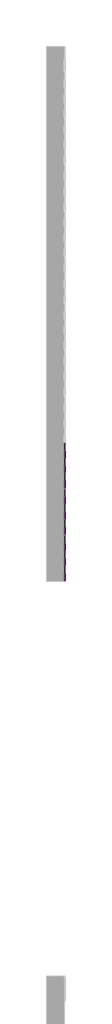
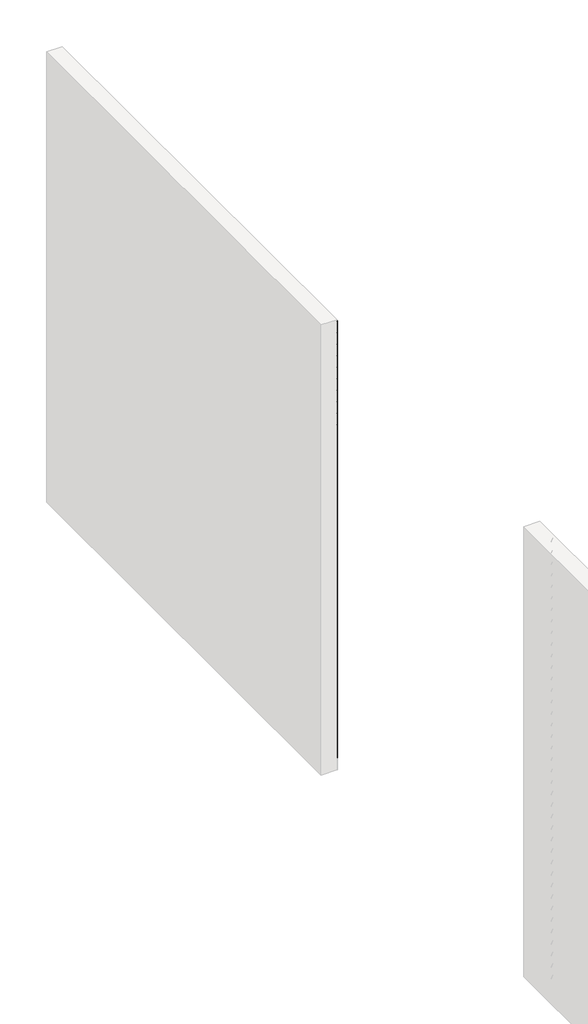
# One storey, part 25 of 45: 147 proxies.
"""IFC4 building model written with IfcOpenShell, lengths in millimetres."""

from ifc_helpers import new_model, si_unit, origin, place, context, project, spatial, transform, mapped, element, save
from components import generic_models_ab0f2c30

model = new_model("IFC4")

# Units and contexts
model_context = context("Model", 3, world=origin())
ifc_project = project(units=[si_unit("LENGTHUNIT", "METRE", prefix="MILLI")], contexts=[model_context])

# Site, building, storey
site = spatial("IfcSite", under=ifc_project)
building = spatial("IfcBuilding", under=site)
storey = spatial("IfcBuildingStorey", under=building, Name="PORTOBELLO - SHOWROOM", Elevation=0.0)

# Proxies
placement = place(None, origin())
generic_models_shape = generic_models_ab0f2c30(model_context)
element("IfcBuildingElementProxy", 1, Name="PBSHOP - HORIZONTES SANTORINI 6,5X23 : SANTORINI ROTAS", ObjectType="PBSHOP - HORIZONTES SANTORINI 6,5X23 : SANTORINI ROTAS", at=placement, inside=storey, context=model_context, shape_type="MappedRepresentation", body=[
    mapped(generic_models_shape, transform((66511.8826867, 11194.0312463, 34.5), x_axis=(0.0, 0.0, 1.0), y_axis=(0.0, -1.0, 0.0), z_axis=(1.0, 0.0, 0.0))),
])
element("IfcBuildingElementProxy", 2, Name="PBSHOP - HORIZONTES SANTORINI 6,5X23 : SANTORINI ROTAS", ObjectType="PBSHOP - HORIZONTES SANTORINI 6,5X23 : SANTORINI ROTAS", at=placement, inside=storey, context=model_context, shape_type="MappedRepresentation", body=[
    mapped(generic_models_shape, transform((66511.8826867, 11428.0312463, 34.5), x_axis=(0.0, 0.0, 1.0), y_axis=(0.0, -1.0, 0.0), z_axis=(1.0, 0.0, 0.0))),
])
element("IfcBuildingElementProxy", 3, Name="PBSHOP - HORIZONTES SANTORINI 6,5X23 : SANTORINI ROTAS", ObjectType="PBSHOP - HORIZONTES SANTORINI 6,5X23 : SANTORINI ROTAS", at=placement, inside=storey, context=model_context, shape_type="MappedRepresentation", body=[
    mapped(generic_models_shape, transform((66511.8826867, 11662.0312463, 34.5), x_axis=(0.0, 0.0, 1.0), y_axis=(0.0, -1.0, 0.0), z_axis=(1.0, 0.0, 0.0))),
])
element("IfcBuildingElementProxy", 4, Name="PBSHOP - HORIZONTES SANTORINI 6,5X23 : SANTORINI ROTAS", ObjectType="PBSHOP - HORIZONTES SANTORINI 6,5X23 : SANTORINI ROTAS", at=placement, inside=storey, context=model_context, shape_type="MappedRepresentation", body=[
    mapped(generic_models_shape, transform((66511.8826867, 11896.0312463, 34.5), x_axis=(0.0, 0.0, 1.0), y_axis=(0.0, -1.0, 0.0), z_axis=(1.0, 0.0, 0.0))),
])
element("IfcBuildingElementProxy", 5, Name="PBSHOP - HORIZONTES SANTORINI 6,5X23 : SANTORINI ROTAS", ObjectType="PBSHOP - HORIZONTES SANTORINI 6,5X23 : SANTORINI ROTAS", at=placement, inside=storey, context=model_context, shape_type="MappedRepresentation", body=[
    mapped(generic_models_shape, transform((66511.8826867, 10492.0312463, 103.5), x_axis=(0.0, 0.0, 1.0), y_axis=(0.0, -1.0, 0.0), z_axis=(1.0, 0.0, 0.0))),
])
element("IfcBuildingElementProxy", 6, Name="PBSHOP - HORIZONTES SANTORINI 6,5X23 : SANTORINI ROTAS", ObjectType="PBSHOP - HORIZONTES SANTORINI 6,5X23 : SANTORINI ROTAS", at=placement, inside=storey, context=model_context, shape_type="MappedRepresentation", body=[
    mapped(generic_models_shape, transform((66511.8826867, 10726.0312463, 103.5), x_axis=(0.0, 0.0, 1.0), y_axis=(0.0, -1.0, 0.0), z_axis=(1.0, 0.0, 0.0))),
])
element("IfcBuildingElementProxy", 7, Name="PBSHOP - HORIZONTES SANTORINI 6,5X23 : SANTORINI ROTAS", ObjectType="PBSHOP - HORIZONTES SANTORINI 6,5X23 : SANTORINI ROTAS", at=placement, inside=storey, context=model_context, shape_type="MappedRepresentation", body=[
    mapped(generic_models_shape, transform((66511.8826867, 10960.0312463, 103.5), x_axis=(0.0, 0.0, 1.0), y_axis=(0.0, -1.0, 0.0), z_axis=(1.0, 0.0, 0.0))),
])
element("IfcBuildingElementProxy", 8, Name="PBSHOP - HORIZONTES SANTORINI 6,5X23 : SANTORINI ROTAS", ObjectType="PBSHOP - HORIZONTES SANTORINI 6,5X23 : SANTORINI ROTAS", at=placement, inside=storey, context=model_context, shape_type="MappedRepresentation", body=[
    mapped(generic_models_shape, transform((66511.8826867, 11194.0312463, 103.5), x_axis=(0.0, 0.0, 1.0), y_axis=(0.0, -1.0, 0.0), z_axis=(1.0, 0.0, 0.0))),
])
element("IfcBuildingElementProxy", 9, Name="PBSHOP - HORIZONTES SANTORINI 6,5X23 : SANTORINI ROTAS", ObjectType="PBSHOP - HORIZONTES SANTORINI 6,5X23 : SANTORINI ROTAS", at=placement, inside=storey, context=model_context, shape_type="MappedRepresentation", body=[
    mapped(generic_models_shape, transform((66511.8826867, 11428.0312463, 103.5), x_axis=(0.0, 0.0, 1.0), y_axis=(0.0, -1.0, 0.0), z_axis=(1.0, 0.0, 0.0))),
])
element("IfcBuildingElementProxy", 10, Name="PBSHOP - HORIZONTES SANTORINI 6,5X23 : SANTORINI ROTAS", ObjectType="PBSHOP - HORIZONTES SANTORINI 6,5X23 : SANTORINI ROTAS", at=placement, inside=storey, context=model_context, shape_type="MappedRepresentation", body=[
    mapped(generic_models_shape, transform((66511.8826867, 11662.0312463, 103.5), x_axis=(0.0, 0.0, 1.0), y_axis=(0.0, -1.0, 0.0), z_axis=(1.0, 0.0, 0.0))),
])
element("IfcBuildingElementProxy", 11, Name="PBSHOP - HORIZONTES SANTORINI 6,5X23 : SANTORINI ROTAS", ObjectType="PBSHOP - HORIZONTES SANTORINI 6,5X23 : SANTORINI ROTAS", at=placement, inside=storey, context=model_context, shape_type="MappedRepresentation", body=[
    mapped(generic_models_shape, transform((66511.8826867, 11896.0312463, 103.5), x_axis=(0.0, 0.0, 1.0), y_axis=(0.0, -1.0, 0.0), z_axis=(1.0, 0.0, 0.0))),
])
element("IfcBuildingElementProxy", 12, Name="PBSHOP - HORIZONTES SANTORINI 6,5X23 : SANTORINI ROTAS", ObjectType="PBSHOP - HORIZONTES SANTORINI 6,5X23 : SANTORINI ROTAS", at=placement, inside=storey, context=model_context, shape_type="MappedRepresentation", body=[
    mapped(generic_models_shape, transform((66511.8826867, 10492.0312463, 172.5), x_axis=(0.0, 0.0, 1.0), y_axis=(0.0, -1.0, 0.0), z_axis=(1.0, 0.0, 0.0))),
])
element("IfcBuildingElementProxy", 13, Name="PBSHOP - HORIZONTES SANTORINI 6,5X23 : SANTORINI ROTAS", ObjectType="PBSHOP - HORIZONTES SANTORINI 6,5X23 : SANTORINI ROTAS", at=placement, inside=storey, context=model_context, shape_type="MappedRepresentation", body=[
    mapped(generic_models_shape, transform((66511.8826867, 10726.0312463, 172.5), x_axis=(0.0, 0.0, 1.0), y_axis=(0.0, -1.0, 0.0), z_axis=(1.0, 0.0, 0.0))),
])
element("IfcBuildingElementProxy", 14, Name="PBSHOP - HORIZONTES SANTORINI 6,5X23 : SANTORINI ROTAS", ObjectType="PBSHOP - HORIZONTES SANTORINI 6,5X23 : SANTORINI ROTAS", at=placement, inside=storey, context=model_context, shape_type="MappedRepresentation", body=[
    mapped(generic_models_shape, transform((66511.8826867, 10960.0312463, 172.5), x_axis=(0.0, 0.0, 1.0), y_axis=(0.0, -1.0, 0.0), z_axis=(1.0, 0.0, 0.0))),
])
element("IfcBuildingElementProxy", 15, Name="PBSHOP - HORIZONTES SANTORINI 6,5X23 : SANTORINI ROTAS", ObjectType="PBSHOP - HORIZONTES SANTORINI 6,5X23 : SANTORINI ROTAS", at=placement, inside=storey, context=model_context, shape_type="MappedRepresentation", body=[
    mapped(generic_models_shape, transform((66511.8826867, 11194.0312463, 172.5), x_axis=(0.0, 0.0, 1.0), y_axis=(0.0, -1.0, 0.0), z_axis=(1.0, 0.0, 0.0))),
])
element("IfcBuildingElementProxy", 16, Name="PBSHOP - HORIZONTES SANTORINI 6,5X23 : SANTORINI ROTAS", ObjectType="PBSHOP - HORIZONTES SANTORINI 6,5X23 : SANTORINI ROTAS", at=placement, inside=storey, context=model_context, shape_type="MappedRepresentation", body=[
    mapped(generic_models_shape, transform((66511.8826867, 11428.0312463, 172.5), x_axis=(0.0, 0.0, 1.0), y_axis=(0.0, -1.0, 0.0), z_axis=(1.0, 0.0, 0.0))),
])
element("IfcBuildingElementProxy", 17, Name="PBSHOP - HORIZONTES SANTORINI 6,5X23 : SANTORINI ROTAS", ObjectType="PBSHOP - HORIZONTES SANTORINI 6,5X23 : SANTORINI ROTAS", at=placement, inside=storey, context=model_context, shape_type="MappedRepresentation", body=[
    mapped(generic_models_shape, transform((66511.8826867, 11662.0312463, 172.5), x_axis=(0.0, 0.0, 1.0), y_axis=(0.0, -1.0, 0.0), z_axis=(1.0, 0.0, 0.0))),
])
element("IfcBuildingElementProxy", 18, Name="PBSHOP - HORIZONTES SANTORINI 6,5X23 : SANTORINI ROTAS", ObjectType="PBSHOP - HORIZONTES SANTORINI 6,5X23 : SANTORINI ROTAS", at=placement, inside=storey, context=model_context, shape_type="MappedRepresentation", body=[
    mapped(generic_models_shape, transform((66511.8826867, 11896.0312463, 172.5), x_axis=(0.0, 0.0, 1.0), y_axis=(0.0, -1.0, 0.0), z_axis=(1.0, 0.0, 0.0))),
])
element("IfcBuildingElementProxy", 19, Name="PBSHOP - HORIZONTES SANTORINI 6,5X23 : SANTORINI ROTAS", ObjectType="PBSHOP - HORIZONTES SANTORINI 6,5X23 : SANTORINI ROTAS", at=placement, inside=storey, context=model_context, shape_type="MappedRepresentation", body=[
    mapped(generic_models_shape, transform((66511.8826867, 10492.0312463, 241.5), x_axis=(0.0, 0.0, 1.0), y_axis=(0.0, -1.0, 0.0), z_axis=(1.0, 0.0, 0.0))),
])
element("IfcBuildingElementProxy", 20, Name="PBSHOP - HORIZONTES SANTORINI 6,5X23 : SANTORINI ROTAS", ObjectType="PBSHOP - HORIZONTES SANTORINI 6,5X23 : SANTORINI ROTAS", at=placement, inside=storey, context=model_context, shape_type="MappedRepresentation", body=[
    mapped(generic_models_shape, transform((66511.8826867, 10726.0312463, 241.5), x_axis=(0.0, 0.0, 1.0), y_axis=(0.0, -1.0, 0.0), z_axis=(1.0, 0.0, 0.0))),
])
element("IfcBuildingElementProxy", 21, Name="PBSHOP - HORIZONTES SANTORINI 6,5X23 : SANTORINI ROTAS", ObjectType="PBSHOP - HORIZONTES SANTORINI 6,5X23 : SANTORINI ROTAS", at=placement, inside=storey, context=model_context, shape_type="MappedRepresentation", body=[
    mapped(generic_models_shape, transform((66511.8826867, 10960.0312463, 241.5), x_axis=(0.0, 0.0, 1.0), y_axis=(0.0, -1.0, 0.0), z_axis=(1.0, 0.0, 0.0))),
])
element("IfcBuildingElementProxy", 22, Name="PBSHOP - HORIZONTES SANTORINI 6,5X23 : SANTORINI ROTAS", ObjectType="PBSHOP - HORIZONTES SANTORINI 6,5X23 : SANTORINI ROTAS", at=placement, inside=storey, context=model_context, shape_type="MappedRepresentation", body=[
    mapped(generic_models_shape, transform((66511.8826867, 11194.0312463, 241.5), x_axis=(0.0, 0.0, 1.0), y_axis=(0.0, -1.0, 0.0), z_axis=(1.0, 0.0, 0.0))),
])
element("IfcBuildingElementProxy", 23, Name="PBSHOP - HORIZONTES SANTORINI 6,5X23 : SANTORINI ROTAS", ObjectType="PBSHOP - HORIZONTES SANTORINI 6,5X23 : SANTORINI ROTAS", at=placement, inside=storey, context=model_context, shape_type="MappedRepresentation", body=[
    mapped(generic_models_shape, transform((66511.8826867, 11428.0312463, 241.5), x_axis=(0.0, 0.0, 1.0), y_axis=(0.0, -1.0, 0.0), z_axis=(1.0, 0.0, 0.0))),
])
element("IfcBuildingElementProxy", 24, Name="PBSHOP - HORIZONTES SANTORINI 6,5X23 : SANTORINI ROTAS", ObjectType="PBSHOP - HORIZONTES SANTORINI 6,5X23 : SANTORINI ROTAS", at=placement, inside=storey, context=model_context, shape_type="MappedRepresentation", body=[
    mapped(generic_models_shape, transform((66511.8826867, 11662.0312463, 241.5), x_axis=(0.0, 0.0, 1.0), y_axis=(0.0, -1.0, 0.0), z_axis=(1.0, 0.0, 0.0))),
])
element("IfcBuildingElementProxy", 25, Name="PBSHOP - HORIZONTES SANTORINI 6,5X23 : SANTORINI ROTAS", ObjectType="PBSHOP - HORIZONTES SANTORINI 6,5X23 : SANTORINI ROTAS", at=placement, inside=storey, context=model_context, shape_type="MappedRepresentation", body=[
    mapped(generic_models_shape, transform((66511.8826867, 11896.0312463, 241.5), x_axis=(0.0, 0.0, 1.0), y_axis=(0.0, -1.0, 0.0), z_axis=(1.0, 0.0, 0.0))),
])
element("IfcBuildingElementProxy", 26, Name="PBSHOP - HORIZONTES SANTORINI 6,5X23 : SANTORINI ROTAS", ObjectType="PBSHOP - HORIZONTES SANTORINI 6,5X23 : SANTORINI ROTAS", at=placement, inside=storey, context=model_context, shape_type="MappedRepresentation", body=[
    mapped(generic_models_shape, transform((66511.8826867, 10492.0312463, 310.5), x_axis=(0.0, 0.0, 1.0), y_axis=(0.0, -1.0, 0.0), z_axis=(1.0, 0.0, 0.0))),
])
element("IfcBuildingElementProxy", 27, Name="PBSHOP - HORIZONTES SANTORINI 6,5X23 : SANTORINI ROTAS", ObjectType="PBSHOP - HORIZONTES SANTORINI 6,5X23 : SANTORINI ROTAS", at=placement, inside=storey, context=model_context, shape_type="MappedRepresentation", body=[
    mapped(generic_models_shape, transform((66511.8826867, 10726.0312463, 310.5), x_axis=(0.0, 0.0, 1.0), y_axis=(0.0, -1.0, 0.0), z_axis=(1.0, 0.0, 0.0))),
])
element("IfcBuildingElementProxy", 28, Name="PBSHOP - HORIZONTES SANTORINI 6,5X23 : SANTORINI ROTAS", ObjectType="PBSHOP - HORIZONTES SANTORINI 6,5X23 : SANTORINI ROTAS", at=placement, inside=storey, context=model_context, shape_type="MappedRepresentation", body=[
    mapped(generic_models_shape, transform((66511.8826867, 10960.0312463, 310.5), x_axis=(0.0, 0.0, 1.0), y_axis=(0.0, -1.0, 0.0), z_axis=(1.0, 0.0, 0.0))),
])
element("IfcBuildingElementProxy", 29, Name="PBSHOP - HORIZONTES SANTORINI 6,5X23 : SANTORINI ROTAS", ObjectType="PBSHOP - HORIZONTES SANTORINI 6,5X23 : SANTORINI ROTAS", at=placement, inside=storey, context=model_context, shape_type="MappedRepresentation", body=[
    mapped(generic_models_shape, transform((66511.8826867, 11194.0312463, 310.5), x_axis=(0.0, 0.0, 1.0), y_axis=(0.0, -1.0, 0.0), z_axis=(1.0, 0.0, 0.0))),
])
element("IfcBuildingElementProxy", 30, Name="PBSHOP - HORIZONTES SANTORINI 6,5X23 : SANTORINI ROTAS", ObjectType="PBSHOP - HORIZONTES SANTORINI 6,5X23 : SANTORINI ROTAS", at=placement, inside=storey, context=model_context, shape_type="MappedRepresentation", body=[
    mapped(generic_models_shape, transform((66511.8826867, 11428.0312463, 310.5), x_axis=(0.0, 0.0, 1.0), y_axis=(0.0, -1.0, 0.0), z_axis=(1.0, 0.0, 0.0))),
])
element("IfcBuildingElementProxy", 31, Name="PBSHOP - HORIZONTES SANTORINI 6,5X23 : SANTORINI ROTAS", ObjectType="PBSHOP - HORIZONTES SANTORINI 6,5X23 : SANTORINI ROTAS", at=placement, inside=storey, context=model_context, shape_type="MappedRepresentation", body=[
    mapped(generic_models_shape, transform((66511.8826867, 11662.0312463, 310.5), x_axis=(0.0, 0.0, 1.0), y_axis=(0.0, -1.0, 0.0), z_axis=(1.0, 0.0, 0.0))),
])
element("IfcBuildingElementProxy", 32, Name="PBSHOP - HORIZONTES SANTORINI 6,5X23 : SANTORINI ROTAS", ObjectType="PBSHOP - HORIZONTES SANTORINI 6,5X23 : SANTORINI ROTAS", at=placement, inside=storey, context=model_context, shape_type="MappedRepresentation", body=[
    mapped(generic_models_shape, transform((66511.8826867, 11896.0312463, 310.5), x_axis=(0.0, 0.0, 1.0), y_axis=(0.0, -1.0, 0.0), z_axis=(1.0, 0.0, 0.0))),
])
element("IfcBuildingElementProxy", 33, Name="PBSHOP - HORIZONTES SANTORINI 6,5X23 : SANTORINI ROTAS", ObjectType="PBSHOP - HORIZONTES SANTORINI 6,5X23 : SANTORINI ROTAS", at=placement, inside=storey, context=model_context, shape_type="MappedRepresentation", body=[
    mapped(generic_models_shape, transform((66511.8826867, 10492.0312463, 379.5), x_axis=(0.0, 0.0, 1.0), y_axis=(0.0, -1.0, 0.0), z_axis=(1.0, 0.0, 0.0))),
])
element("IfcBuildingElementProxy", 34, Name="PBSHOP - HORIZONTES SANTORINI 6,5X23 : SANTORINI ROTAS", ObjectType="PBSHOP - HORIZONTES SANTORINI 6,5X23 : SANTORINI ROTAS", at=placement, inside=storey, context=model_context, shape_type="MappedRepresentation", body=[
    mapped(generic_models_shape, transform((66511.8826867, 10726.0312463, 379.5), x_axis=(0.0, 0.0, 1.0), y_axis=(0.0, -1.0, 0.0), z_axis=(1.0, 0.0, 0.0))),
])
element("IfcBuildingElementProxy", 35, Name="PBSHOP - HORIZONTES SANTORINI 6,5X23 : SANTORINI ROTAS", ObjectType="PBSHOP - HORIZONTES SANTORINI 6,5X23 : SANTORINI ROTAS", at=placement, inside=storey, context=model_context, shape_type="MappedRepresentation", body=[
    mapped(generic_models_shape, transform((66511.8826867, 10960.0312463, 379.5), x_axis=(0.0, 0.0, 1.0), y_axis=(0.0, -1.0, 0.0), z_axis=(1.0, 0.0, 0.0))),
])
element("IfcBuildingElementProxy", 36, Name="PBSHOP - HORIZONTES SANTORINI 6,5X23 : SANTORINI ROTAS", ObjectType="PBSHOP - HORIZONTES SANTORINI 6,5X23 : SANTORINI ROTAS", at=placement, inside=storey, context=model_context, shape_type="MappedRepresentation", body=[
    mapped(generic_models_shape, transform((66511.8826867, 11194.0312463, 379.5), x_axis=(0.0, 0.0, 1.0), y_axis=(0.0, -1.0, 0.0), z_axis=(1.0, 0.0, 0.0))),
])
element("IfcBuildingElementProxy", 37, Name="PBSHOP - HORIZONTES SANTORINI 6,5X23 : SANTORINI ROTAS", ObjectType="PBSHOP - HORIZONTES SANTORINI 6,5X23 : SANTORINI ROTAS", at=placement, inside=storey, context=model_context, shape_type="MappedRepresentation", body=[
    mapped(generic_models_shape, transform((66511.8826867, 11428.0312463, 379.5), x_axis=(0.0, 0.0, 1.0), y_axis=(0.0, -1.0, 0.0), z_axis=(1.0, 0.0, 0.0))),
])
element("IfcBuildingElementProxy", 38, Name="PBSHOP - HORIZONTES SANTORINI 6,5X23 : SANTORINI ROTAS", ObjectType="PBSHOP - HORIZONTES SANTORINI 6,5X23 : SANTORINI ROTAS", at=placement, inside=storey, context=model_context, shape_type="MappedRepresentation", body=[
    mapped(generic_models_shape, transform((66511.8826867, 11662.0312463, 379.5), x_axis=(0.0, 0.0, 1.0), y_axis=(0.0, -1.0, 0.0), z_axis=(1.0, 0.0, 0.0))),
])
element("IfcBuildingElementProxy", 39, Name="PBSHOP - HORIZONTES SANTORINI 6,5X23 : SANTORINI ROTAS", ObjectType="PBSHOP - HORIZONTES SANTORINI 6,5X23 : SANTORINI ROTAS", at=placement, inside=storey, context=model_context, shape_type="MappedRepresentation", body=[
    mapped(generic_models_shape, transform((66511.8826867, 11896.0312463, 379.5), x_axis=(0.0, 0.0, 1.0), y_axis=(0.0, -1.0, 0.0), z_axis=(1.0, 0.0, 0.0))),
])
element("IfcBuildingElementProxy", 40, Name="PBSHOP - HORIZONTES SANTORINI 6,5X23 : SANTORINI ROTAS", ObjectType="PBSHOP - HORIZONTES SANTORINI 6,5X23 : SANTORINI ROTAS", at=placement, inside=storey, context=model_context, shape_type="MappedRepresentation", body=[
    mapped(generic_models_shape, transform((66511.8826867, 10492.0312463, 448.5), x_axis=(0.0, 0.0, 1.0), y_axis=(0.0, -1.0, 0.0), z_axis=(1.0, 0.0, 0.0))),
])
element("IfcBuildingElementProxy", 41, Name="PBSHOP - HORIZONTES SANTORINI 6,5X23 : SANTORINI ROTAS", ObjectType="PBSHOP - HORIZONTES SANTORINI 6,5X23 : SANTORINI ROTAS", at=placement, inside=storey, context=model_context, shape_type="MappedRepresentation", body=[
    mapped(generic_models_shape, transform((66511.8826867, 10726.0312463, 448.5), x_axis=(0.0, 0.0, 1.0), y_axis=(0.0, -1.0, 0.0), z_axis=(1.0, 0.0, 0.0))),
])
element("IfcBuildingElementProxy", 42, Name="PBSHOP - HORIZONTES SANTORINI 6,5X23 : SANTORINI ROTAS", ObjectType="PBSHOP - HORIZONTES SANTORINI 6,5X23 : SANTORINI ROTAS", at=placement, inside=storey, context=model_context, shape_type="MappedRepresentation", body=[
    mapped(generic_models_shape, transform((66511.8826867, 10960.0312463, 448.5), x_axis=(0.0, 0.0, 1.0), y_axis=(0.0, -1.0, 0.0), z_axis=(1.0, 0.0, 0.0))),
])
element("IfcBuildingElementProxy", 43, Name="PBSHOP - HORIZONTES SANTORINI 6,5X23 : SANTORINI ROTAS", ObjectType="PBSHOP - HORIZONTES SANTORINI 6,5X23 : SANTORINI ROTAS", at=placement, inside=storey, context=model_context, shape_type="MappedRepresentation", body=[
    mapped(generic_models_shape, transform((66511.8826867, 11194.0312463, 448.5), x_axis=(0.0, 0.0, 1.0), y_axis=(0.0, -1.0, 0.0), z_axis=(1.0, 0.0, 0.0))),
])
element("IfcBuildingElementProxy", 44, Name="PBSHOP - HORIZONTES SANTORINI 6,5X23 : SANTORINI ROTAS", ObjectType="PBSHOP - HORIZONTES SANTORINI 6,5X23 : SANTORINI ROTAS", at=placement, inside=storey, context=model_context, shape_type="MappedRepresentation", body=[
    mapped(generic_models_shape, transform((66511.8826867, 11428.0312463, 448.5), x_axis=(0.0, 0.0, 1.0), y_axis=(0.0, -1.0, 0.0), z_axis=(1.0, 0.0, 0.0))),
])
element("IfcBuildingElementProxy", 45, Name="PBSHOP - HORIZONTES SANTORINI 6,5X23 : SANTORINI ROTAS", ObjectType="PBSHOP - HORIZONTES SANTORINI 6,5X23 : SANTORINI ROTAS", at=placement, inside=storey, context=model_context, shape_type="MappedRepresentation", body=[
    mapped(generic_models_shape, transform((66511.8826867, 11662.0312463, 448.5), x_axis=(0.0, 0.0, 1.0), y_axis=(0.0, -1.0, 0.0), z_axis=(1.0, 0.0, 0.0))),
])
element("IfcBuildingElementProxy", 46, Name="PBSHOP - HORIZONTES SANTORINI 6,5X23 : SANTORINI ROTAS", ObjectType="PBSHOP - HORIZONTES SANTORINI 6,5X23 : SANTORINI ROTAS", at=placement, inside=storey, context=model_context, shape_type="MappedRepresentation", body=[
    mapped(generic_models_shape, transform((66511.8826867, 11896.0312463, 448.5), x_axis=(0.0, 0.0, 1.0), y_axis=(0.0, -1.0, 0.0), z_axis=(1.0, 0.0, 0.0))),
])
element("IfcBuildingElementProxy", 47, Name="PBSHOP - HORIZONTES SANTORINI 6,5X23 : SANTORINI ROTAS", ObjectType="PBSHOP - HORIZONTES SANTORINI 6,5X23 : SANTORINI ROTAS", at=placement, inside=storey, context=model_context, shape_type="MappedRepresentation", body=[
    mapped(generic_models_shape, transform((66511.8826867, 10492.0312463, 517.5), x_axis=(0.0, 0.0, 1.0), y_axis=(0.0, -1.0, 0.0), z_axis=(1.0, 0.0, 0.0))),
])
element("IfcBuildingElementProxy", 48, Name="PBSHOP - HORIZONTES SANTORINI 6,5X23 : SANTORINI ROTAS", ObjectType="PBSHOP - HORIZONTES SANTORINI 6,5X23 : SANTORINI ROTAS", at=placement, inside=storey, context=model_context, shape_type="MappedRepresentation", body=[
    mapped(generic_models_shape, transform((66511.8826867, 10726.0312463, 517.5), x_axis=(0.0, 0.0, 1.0), y_axis=(0.0, -1.0, 0.0), z_axis=(1.0, 0.0, 0.0))),
])
element("IfcBuildingElementProxy", 49, Name="PBSHOP - HORIZONTES SANTORINI 6,5X23 : SANTORINI ROTAS", ObjectType="PBSHOP - HORIZONTES SANTORINI 6,5X23 : SANTORINI ROTAS", at=placement, inside=storey, context=model_context, shape_type="MappedRepresentation", body=[
    mapped(generic_models_shape, transform((66511.8826867, 10960.0312463, 517.5), x_axis=(0.0, 0.0, 1.0), y_axis=(0.0, -1.0, 0.0), z_axis=(1.0, 0.0, 0.0))),
])
element("IfcBuildingElementProxy", 50, Name="PBSHOP - HORIZONTES SANTORINI 6,5X23 : SANTORINI ROTAS", ObjectType="PBSHOP - HORIZONTES SANTORINI 6,5X23 : SANTORINI ROTAS", at=placement, inside=storey, context=model_context, shape_type="MappedRepresentation", body=[
    mapped(generic_models_shape, transform((66511.8826867, 11194.0312463, 517.5), x_axis=(0.0, 0.0, 1.0), y_axis=(0.0, -1.0, 0.0), z_axis=(1.0, 0.0, 0.0))),
])
element("IfcBuildingElementProxy", 51, Name="PBSHOP - HORIZONTES SANTORINI 6,5X23 : SANTORINI ROTAS", ObjectType="PBSHOP - HORIZONTES SANTORINI 6,5X23 : SANTORINI ROTAS", at=placement, inside=storey, context=model_context, shape_type="MappedRepresentation", body=[
    mapped(generic_models_shape, transform((66511.8826867, 11428.0312463, 517.5), x_axis=(0.0, 0.0, 1.0), y_axis=(0.0, -1.0, 0.0), z_axis=(1.0, 0.0, 0.0))),
])
element("IfcBuildingElementProxy", 52, Name="PBSHOP - HORIZONTES SANTORINI 6,5X23 : SANTORINI ROTAS", ObjectType="PBSHOP - HORIZONTES SANTORINI 6,5X23 : SANTORINI ROTAS", at=placement, inside=storey, context=model_context, shape_type="MappedRepresentation", body=[
    mapped(generic_models_shape, transform((66511.8826867, 11662.0312463, 517.5), x_axis=(0.0, 0.0, 1.0), y_axis=(0.0, -1.0, 0.0), z_axis=(1.0, 0.0, 0.0))),
])
element("IfcBuildingElementProxy", 53, Name="PBSHOP - HORIZONTES SANTORINI 6,5X23 : SANTORINI ROTAS", ObjectType="PBSHOP - HORIZONTES SANTORINI 6,5X23 : SANTORINI ROTAS", at=placement, inside=storey, context=model_context, shape_type="MappedRepresentation", body=[
    mapped(generic_models_shape, transform((66511.8826867, 11896.0312463, 517.5), x_axis=(0.0, 0.0, 1.0), y_axis=(0.0, -1.0, 0.0), z_axis=(1.0, 0.0, 0.0))),
])
element("IfcBuildingElementProxy", 54, Name="PBSHOP - HORIZONTES SANTORINI 6,5X23 : SANTORINI ROTAS", ObjectType="PBSHOP - HORIZONTES SANTORINI 6,5X23 : SANTORINI ROTAS", at=placement, inside=storey, context=model_context, shape_type="MappedRepresentation", body=[
    mapped(generic_models_shape, transform((66511.8826867, 10492.0312463, 586.5), x_axis=(0.0, 0.0, 1.0), y_axis=(0.0, -1.0, 0.0), z_axis=(1.0, 0.0, 0.0))),
])
element("IfcBuildingElementProxy", 55, Name="PBSHOP - HORIZONTES SANTORINI 6,5X23 : SANTORINI ROTAS", ObjectType="PBSHOP - HORIZONTES SANTORINI 6,5X23 : SANTORINI ROTAS", at=placement, inside=storey, context=model_context, shape_type="MappedRepresentation", body=[
    mapped(generic_models_shape, transform((66511.8826867, 10726.0312463, 586.5), x_axis=(0.0, 0.0, 1.0), y_axis=(0.0, -1.0, 0.0), z_axis=(1.0, 0.0, 0.0))),
])
element("IfcBuildingElementProxy", 56, Name="PBSHOP - HORIZONTES SANTORINI 6,5X23 : SANTORINI ROTAS", ObjectType="PBSHOP - HORIZONTES SANTORINI 6,5X23 : SANTORINI ROTAS", at=placement, inside=storey, context=model_context, shape_type="MappedRepresentation", body=[
    mapped(generic_models_shape, transform((66511.8826867, 10960.0312463, 586.5), x_axis=(0.0, 0.0, 1.0), y_axis=(0.0, -1.0, 0.0), z_axis=(1.0, 0.0, 0.0))),
])
element("IfcBuildingElementProxy", 57, Name="PBSHOP - HORIZONTES SANTORINI 6,5X23 : SANTORINI ROTAS", ObjectType="PBSHOP - HORIZONTES SANTORINI 6,5X23 : SANTORINI ROTAS", at=placement, inside=storey, context=model_context, shape_type="MappedRepresentation", body=[
    mapped(generic_models_shape, transform((66511.8826867, 11194.0312463, 586.5), x_axis=(0.0, 0.0, 1.0), y_axis=(0.0, -1.0, 0.0), z_axis=(1.0, 0.0, 0.0))),
])
element("IfcBuildingElementProxy", 58, Name="PBSHOP - HORIZONTES SANTORINI 6,5X23 : SANTORINI ROTAS", ObjectType="PBSHOP - HORIZONTES SANTORINI 6,5X23 : SANTORINI ROTAS", at=placement, inside=storey, context=model_context, shape_type="MappedRepresentation", body=[
    mapped(generic_models_shape, transform((66511.8826867, 10492.0312463, 655.5), x_axis=(0.0, 0.0, 1.0), y_axis=(0.0, -1.0, 0.0), z_axis=(1.0, 0.0, 0.0))),
])
element("IfcBuildingElementProxy", 59, Name="PBSHOP - HORIZONTES SANTORINI 6,5X23 : SANTORINI ROTAS", ObjectType="PBSHOP - HORIZONTES SANTORINI 6,5X23 : SANTORINI ROTAS", at=placement, inside=storey, context=model_context, shape_type="MappedRepresentation", body=[
    mapped(generic_models_shape, transform((66511.8826867, 10726.0312463, 655.5), x_axis=(0.0, 0.0, 1.0), y_axis=(0.0, -1.0, 0.0), z_axis=(1.0, 0.0, 0.0))),
])
element("IfcBuildingElementProxy", 60, Name="PBSHOP - HORIZONTES SANTORINI 6,5X23 : SANTORINI ROTAS", ObjectType="PBSHOP - HORIZONTES SANTORINI 6,5X23 : SANTORINI ROTAS", at=placement, inside=storey, context=model_context, shape_type="MappedRepresentation", body=[
    mapped(generic_models_shape, transform((66511.8826867, 10960.0312463, 655.5), x_axis=(0.0, 0.0, 1.0), y_axis=(0.0, -1.0, 0.0), z_axis=(1.0, 0.0, 0.0))),
])
element("IfcBuildingElementProxy", 61, Name="PBSHOP - HORIZONTES SANTORINI 6,5X23 : SANTORINI ROTAS", ObjectType="PBSHOP - HORIZONTES SANTORINI 6,5X23 : SANTORINI ROTAS", at=placement, inside=storey, context=model_context, shape_type="MappedRepresentation", body=[
    mapped(generic_models_shape, transform((66511.8826867, 10492.0312463, 724.5), x_axis=(0.0, 0.0, 1.0), y_axis=(0.0, -1.0, 0.0), z_axis=(1.0, 0.0, 0.0))),
])
element("IfcBuildingElementProxy", 62, Name="PBSHOP - HORIZONTES SANTORINI 6,5X23 : SANTORINI ROTAS", ObjectType="PBSHOP - HORIZONTES SANTORINI 6,5X23 : SANTORINI ROTAS", at=placement, inside=storey, context=model_context, shape_type="MappedRepresentation", body=[
    mapped(generic_models_shape, transform((66511.8826867, 10726.0312463, 724.5), x_axis=(0.0, 0.0, 1.0), y_axis=(0.0, -1.0, 0.0), z_axis=(1.0, 0.0, 0.0))),
])
element("IfcBuildingElementProxy", 63, Name="PBSHOP - HORIZONTES SANTORINI 6,5X23 : SANTORINI ROTAS", ObjectType="PBSHOP - HORIZONTES SANTORINI 6,5X23 : SANTORINI ROTAS", at=placement, inside=storey, context=model_context, shape_type="MappedRepresentation", body=[
    mapped(generic_models_shape, transform((66511.8826867, 10960.0312463, 724.5), x_axis=(0.0, 0.0, 1.0), y_axis=(0.0, -1.0, 0.0), z_axis=(1.0, 0.0, 0.0))),
])
element("IfcBuildingElementProxy", 64, Name="PBSHOP - HORIZONTES SANTORINI 6,5X23 : SANTORINI ROTAS", ObjectType="PBSHOP - HORIZONTES SANTORINI 6,5X23 : SANTORINI ROTAS", at=placement, inside=storey, context=model_context, shape_type="MappedRepresentation", body=[
    mapped(generic_models_shape, transform((66511.8826867, 10492.0312463, 793.5), x_axis=(0.0, 0.0, 1.0), y_axis=(0.0, -1.0, 0.0), z_axis=(1.0, 0.0, 0.0))),
])
element("IfcBuildingElementProxy", 65, Name="PBSHOP - HORIZONTES SANTORINI 6,5X23 : SANTORINI ROTAS", ObjectType="PBSHOP - HORIZONTES SANTORINI 6,5X23 : SANTORINI ROTAS", at=placement, inside=storey, context=model_context, shape_type="MappedRepresentation", body=[
    mapped(generic_models_shape, transform((66511.8826867, 10726.0312463, 793.5), x_axis=(0.0, 0.0, 1.0), y_axis=(0.0, -1.0, 0.0), z_axis=(1.0, 0.0, 0.0))),
])
element("IfcBuildingElementProxy", 66, Name="PBSHOP - HORIZONTES SANTORINI 6,5X23 : SANTORINI ROTAS", ObjectType="PBSHOP - HORIZONTES SANTORINI 6,5X23 : SANTORINI ROTAS", at=placement, inside=storey, context=model_context, shape_type="MappedRepresentation", body=[
    mapped(generic_models_shape, transform((66511.8826867, 10960.0312463, 793.5), x_axis=(0.0, 0.0, 1.0), y_axis=(0.0, -1.0, 0.0), z_axis=(1.0, 0.0, 0.0))),
])
element("IfcBuildingElementProxy", 67, Name="PBSHOP - HORIZONTES SANTORINI 6,5X23 : SANTORINI ROTAS", ObjectType="PBSHOP - HORIZONTES SANTORINI 6,5X23 : SANTORINI ROTAS", at=placement, inside=storey, context=model_context, shape_type="MappedRepresentation", body=[
    mapped(generic_models_shape, transform((66511.8826867, 10492.0312463, 862.5), x_axis=(0.0, 0.0, 1.0), y_axis=(0.0, -1.0, 0.0), z_axis=(1.0, 0.0, 0.0))),
])
element("IfcBuildingElementProxy", 68, Name="PBSHOP - HORIZONTES SANTORINI 6,5X23 : SANTORINI ROTAS", ObjectType="PBSHOP - HORIZONTES SANTORINI 6,5X23 : SANTORINI ROTAS", at=placement, inside=storey, context=model_context, shape_type="MappedRepresentation", body=[
    mapped(generic_models_shape, transform((66511.8826867, 10726.0312463, 862.5), x_axis=(0.0, 0.0, 1.0), y_axis=(0.0, -1.0, 0.0), z_axis=(1.0, 0.0, 0.0))),
])
element("IfcBuildingElementProxy", 69, Name="PBSHOP - HORIZONTES SANTORINI 6,5X23 : SANTORINI ROTAS", ObjectType="PBSHOP - HORIZONTES SANTORINI 6,5X23 : SANTORINI ROTAS", at=placement, inside=storey, context=model_context, shape_type="MappedRepresentation", body=[
    mapped(generic_models_shape, transform((66511.8826867, 10960.0312463, 862.5), x_axis=(0.0, 0.0, 1.0), y_axis=(0.0, -1.0, 0.0), z_axis=(1.0, 0.0, 0.0))),
])
element("IfcBuildingElementProxy", 70, Name="PBSHOP - HORIZONTES SANTORINI 6,5X23 : SANTORINI ROTAS", ObjectType="PBSHOP - HORIZONTES SANTORINI 6,5X23 : SANTORINI ROTAS", at=placement, inside=storey, context=model_context, shape_type="MappedRepresentation", body=[
    mapped(generic_models_shape, transform((66511.8826867, 10492.0312463, 931.5), x_axis=(0.0, 0.0, 1.0), y_axis=(0.0, -1.0, 0.0), z_axis=(1.0, 0.0, 0.0))),
])
element("IfcBuildingElementProxy", 71, Name="PBSHOP - HORIZONTES SANTORINI 6,5X23 : SANTORINI ROTAS", ObjectType="PBSHOP - HORIZONTES SANTORINI 6,5X23 : SANTORINI ROTAS", at=placement, inside=storey, context=model_context, shape_type="MappedRepresentation", body=[
    mapped(generic_models_shape, transform((66511.8826867, 10726.0312463, 931.5), x_axis=(0.0, 0.0, 1.0), y_axis=(0.0, -1.0, 0.0), z_axis=(1.0, 0.0, 0.0))),
])
element("IfcBuildingElementProxy", 72, Name="PBSHOP - HORIZONTES SANTORINI 6,5X23 : SANTORINI ROTAS", ObjectType="PBSHOP - HORIZONTES SANTORINI 6,5X23 : SANTORINI ROTAS", at=placement, inside=storey, context=model_context, shape_type="MappedRepresentation", body=[
    mapped(generic_models_shape, transform((66511.8826867, 10960.0312463, 931.5), x_axis=(0.0, 0.0, 1.0), y_axis=(0.0, -1.0, 0.0), z_axis=(1.0, 0.0, 0.0))),
])
element("IfcBuildingElementProxy", 73, Name="PBSHOP - HORIZONTES SANTORINI 6,5X23 : SANTORINI ROTAS", ObjectType="PBSHOP - HORIZONTES SANTORINI 6,5X23 : SANTORINI ROTAS", at=placement, inside=storey, context=model_context, shape_type="MappedRepresentation", body=[
    mapped(generic_models_shape, transform((66511.8826867, 10492.0312463, 1000.5), x_axis=(0.0, 0.0, 1.0), y_axis=(0.0, -1.0, 0.0), z_axis=(1.0, 0.0, 0.0))),
])
element("IfcBuildingElementProxy", 74, Name="PBSHOP - HORIZONTES SANTORINI 6,5X23 : SANTORINI ROTAS", ObjectType="PBSHOP - HORIZONTES SANTORINI 6,5X23 : SANTORINI ROTAS", at=placement, inside=storey, context=model_context, shape_type="MappedRepresentation", body=[
    mapped(generic_models_shape, transform((66511.8826867, 10726.0312463, 1000.5), x_axis=(0.0, 0.0, 1.0), y_axis=(0.0, -1.0, 0.0), z_axis=(1.0, 0.0, 0.0))),
])
element("IfcBuildingElementProxy", 75, Name="PBSHOP - HORIZONTES SANTORINI 6,5X23 : SANTORINI ROTAS", ObjectType="PBSHOP - HORIZONTES SANTORINI 6,5X23 : SANTORINI ROTAS", at=placement, inside=storey, context=model_context, shape_type="MappedRepresentation", body=[
    mapped(generic_models_shape, transform((66511.8826867, 10960.0312463, 1000.5), x_axis=(0.0, 0.0, 1.0), y_axis=(0.0, -1.0, 0.0), z_axis=(1.0, 0.0, 0.0))),
])
element("IfcBuildingElementProxy", 76, Name="PBSHOP - HORIZONTES SANTORINI 6,5X23 : SANTORINI ROTAS", ObjectType="PBSHOP - HORIZONTES SANTORINI 6,5X23 : SANTORINI ROTAS", at=placement, inside=storey, context=model_context, shape_type="MappedRepresentation", body=[
    mapped(generic_models_shape, transform((66511.8826867, 10492.0312463, 1069.5), x_axis=(0.0, 0.0, 1.0), y_axis=(0.0, -1.0, 0.0), z_axis=(1.0, 0.0, 0.0))),
])
element("IfcBuildingElementProxy", 77, Name="PBSHOP - HORIZONTES SANTORINI 6,5X23 : SANTORINI ROTAS", ObjectType="PBSHOP - HORIZONTES SANTORINI 6,5X23 : SANTORINI ROTAS", at=placement, inside=storey, context=model_context, shape_type="MappedRepresentation", body=[
    mapped(generic_models_shape, transform((66511.8826867, 10726.0312463, 1069.5), x_axis=(0.0, 0.0, 1.0), y_axis=(0.0, -1.0, 0.0), z_axis=(1.0, 0.0, 0.0))),
])
element("IfcBuildingElementProxy", 78, Name="PBSHOP - HORIZONTES SANTORINI 6,5X23 : SANTORINI ROTAS", ObjectType="PBSHOP - HORIZONTES SANTORINI 6,5X23 : SANTORINI ROTAS", at=placement, inside=storey, context=model_context, shape_type="MappedRepresentation", body=[
    mapped(generic_models_shape, transform((66511.8826867, 10960.0312463, 1069.5), x_axis=(0.0, 0.0, 1.0), y_axis=(0.0, -1.0, 0.0), z_axis=(1.0, 0.0, 0.0))),
])
element("IfcBuildingElementProxy", 79, Name="PBSHOP - HORIZONTES SANTORINI 6,5X23 : SANTORINI ROTAS", ObjectType="PBSHOP - HORIZONTES SANTORINI 6,5X23 : SANTORINI ROTAS", at=placement, inside=storey, context=model_context, shape_type="MappedRepresentation", body=[
    mapped(generic_models_shape, transform((66511.8826867, 10492.0312463, 1138.5), x_axis=(0.0, 0.0, 1.0), y_axis=(0.0, -1.0, 0.0), z_axis=(1.0, 0.0, 0.0))),
])
element("IfcBuildingElementProxy", 80, Name="PBSHOP - HORIZONTES SANTORINI 6,5X23 : SANTORINI ROTAS", ObjectType="PBSHOP - HORIZONTES SANTORINI 6,5X23 : SANTORINI ROTAS", at=placement, inside=storey, context=model_context, shape_type="MappedRepresentation", body=[
    mapped(generic_models_shape, transform((66511.8826867, 10726.0312463, 1138.5), x_axis=(0.0, 0.0, 1.0), y_axis=(0.0, -1.0, 0.0), z_axis=(1.0, 0.0, 0.0))),
])
element("IfcBuildingElementProxy", 81, Name="PBSHOP - HORIZONTES SANTORINI 6,5X23 : SANTORINI ROTAS", ObjectType="PBSHOP - HORIZONTES SANTORINI 6,5X23 : SANTORINI ROTAS", at=placement, inside=storey, context=model_context, shape_type="MappedRepresentation", body=[
    mapped(generic_models_shape, transform((66511.8826867, 10960.0312463, 1138.5), x_axis=(0.0, 0.0, 1.0), y_axis=(0.0, -1.0, 0.0), z_axis=(1.0, 0.0, 0.0))),
])
element("IfcBuildingElementProxy", 82, Name="PBSHOP - HORIZONTES SANTORINI 6,5X23 : SANTORINI ROTAS", ObjectType="PBSHOP - HORIZONTES SANTORINI 6,5X23 : SANTORINI ROTAS", at=placement, inside=storey, context=model_context, shape_type="MappedRepresentation", body=[
    mapped(generic_models_shape, transform((66511.8826867, 10492.0312463, 1207.5), x_axis=(0.0, 0.0, 1.0), y_axis=(0.0, -1.0, 0.0), z_axis=(1.0, 0.0, 0.0))),
])
element("IfcBuildingElementProxy", 83, Name="PBSHOP - HORIZONTES SANTORINI 6,5X23 : SANTORINI ROTAS", ObjectType="PBSHOP - HORIZONTES SANTORINI 6,5X23 : SANTORINI ROTAS", at=placement, inside=storey, context=model_context, shape_type="MappedRepresentation", body=[
    mapped(generic_models_shape, transform((66511.8826867, 10726.0312463, 1207.5), x_axis=(0.0, 0.0, 1.0), y_axis=(0.0, -1.0, 0.0), z_axis=(1.0, 0.0, 0.0))),
])
element("IfcBuildingElementProxy", 84, Name="PBSHOP - HORIZONTES SANTORINI 6,5X23 : SANTORINI ROTAS", ObjectType="PBSHOP - HORIZONTES SANTORINI 6,5X23 : SANTORINI ROTAS", at=placement, inside=storey, context=model_context, shape_type="MappedRepresentation", body=[
    mapped(generic_models_shape, transform((66511.8826867, 10960.0312463, 1207.5), x_axis=(0.0, 0.0, 1.0), y_axis=(0.0, -1.0, 0.0), z_axis=(1.0, 0.0, 0.0))),
])
element("IfcBuildingElementProxy", 85, Name="PBSHOP - HORIZONTES SANTORINI 6,5X23 : SANTORINI ROTAS", ObjectType="PBSHOP - HORIZONTES SANTORINI 6,5X23 : SANTORINI ROTAS", at=placement, inside=storey, context=model_context, shape_type="MappedRepresentation", body=[
    mapped(generic_models_shape, transform((66511.8826867, 10492.0312463, 1276.5), x_axis=(0.0, 0.0, 1.0), y_axis=(0.0, -1.0, 0.0), z_axis=(1.0, 0.0, 0.0))),
])
element("IfcBuildingElementProxy", 86, Name="PBSHOP - HORIZONTES SANTORINI 6,5X23 : SANTORINI ROTAS", ObjectType="PBSHOP - HORIZONTES SANTORINI 6,5X23 : SANTORINI ROTAS", at=placement, inside=storey, context=model_context, shape_type="MappedRepresentation", body=[
    mapped(generic_models_shape, transform((66511.8826867, 10726.0312463, 1276.5), x_axis=(0.0, 0.0, 1.0), y_axis=(0.0, -1.0, 0.0), z_axis=(1.0, 0.0, 0.0))),
])
element("IfcBuildingElementProxy", 87, Name="PBSHOP - HORIZONTES SANTORINI 6,5X23 : SANTORINI ROTAS", ObjectType="PBSHOP - HORIZONTES SANTORINI 6,5X23 : SANTORINI ROTAS", at=placement, inside=storey, context=model_context, shape_type="MappedRepresentation", body=[
    mapped(generic_models_shape, transform((66511.8826867, 10960.0312463, 1276.5), x_axis=(0.0, 0.0, 1.0), y_axis=(0.0, -1.0, 0.0), z_axis=(1.0, 0.0, 0.0))),
])
element("IfcBuildingElementProxy", 88, Name="PBSHOP - HORIZONTES SANTORINI 6,5X23 : SANTORINI ROTAS", ObjectType="PBSHOP - HORIZONTES SANTORINI 6,5X23 : SANTORINI ROTAS", at=placement, inside=storey, context=model_context, shape_type="MappedRepresentation", body=[
    mapped(generic_models_shape, transform((66511.8826867, 10492.0312463, 1345.5), x_axis=(0.0, 0.0, 1.0), y_axis=(0.0, -1.0, 0.0), z_axis=(1.0, 0.0, 0.0))),
])
element("IfcBuildingElementProxy", 89, Name="PBSHOP - HORIZONTES SANTORINI 6,5X23 : SANTORINI ROTAS", ObjectType="PBSHOP - HORIZONTES SANTORINI 6,5X23 : SANTORINI ROTAS", at=placement, inside=storey, context=model_context, shape_type="MappedRepresentation", body=[
    mapped(generic_models_shape, transform((66511.8826867, 10726.0312463, 1345.5), x_axis=(0.0, 0.0, 1.0), y_axis=(0.0, -1.0, 0.0), z_axis=(1.0, 0.0, 0.0))),
])
element("IfcBuildingElementProxy", 90, Name="PBSHOP - HORIZONTES SANTORINI 6,5X23 : SANTORINI ROTAS", ObjectType="PBSHOP - HORIZONTES SANTORINI 6,5X23 : SANTORINI ROTAS", at=placement, inside=storey, context=model_context, shape_type="MappedRepresentation", body=[
    mapped(generic_models_shape, transform((66511.8826867, 10960.0312463, 1345.5), x_axis=(0.0, 0.0, 1.0), y_axis=(0.0, -1.0, 0.0), z_axis=(1.0, 0.0, 0.0))),
])
element("IfcBuildingElementProxy", 91, Name="PBSHOP - HORIZONTES SANTORINI 6,5X23 : SANTORINI ROTAS", ObjectType="PBSHOP - HORIZONTES SANTORINI 6,5X23 : SANTORINI ROTAS", at=placement, inside=storey, context=model_context, shape_type="MappedRepresentation", body=[
    mapped(generic_models_shape, transform((66511.8826867, 10492.0312463, 1414.5), x_axis=(0.0, 0.0, 1.0), y_axis=(0.0, -1.0, 0.0), z_axis=(1.0, 0.0, 0.0))),
])
element("IfcBuildingElementProxy", 92, Name="PBSHOP - HORIZONTES SANTORINI 6,5X23 : SANTORINI ROTAS", ObjectType="PBSHOP - HORIZONTES SANTORINI 6,5X23 : SANTORINI ROTAS", at=placement, inside=storey, context=model_context, shape_type="MappedRepresentation", body=[
    mapped(generic_models_shape, transform((66511.8826867, 10726.0312463, 1414.5), x_axis=(0.0, 0.0, 1.0), y_axis=(0.0, -1.0, 0.0), z_axis=(1.0, 0.0, 0.0))),
])
element("IfcBuildingElementProxy", 93, Name="PBSHOP - HORIZONTES SANTORINI 6,5X23 : SANTORINI ROTAS", ObjectType="PBSHOP - HORIZONTES SANTORINI 6,5X23 : SANTORINI ROTAS", at=placement, inside=storey, context=model_context, shape_type="MappedRepresentation", body=[
    mapped(generic_models_shape, transform((66511.8826867, 10960.0312463, 1414.5), x_axis=(0.0, 0.0, 1.0), y_axis=(0.0, -1.0, 0.0), z_axis=(1.0, 0.0, 0.0))),
])
element("IfcBuildingElementProxy", 94, Name="PBSHOP - HORIZONTES SANTORINI 6,5X23 : SANTORINI ROTAS", ObjectType="PBSHOP - HORIZONTES SANTORINI 6,5X23 : SANTORINI ROTAS", at=placement, inside=storey, context=model_context, shape_type="MappedRepresentation", body=[
    mapped(generic_models_shape, transform((66511.8826867, 10492.0312463, 1483.5), x_axis=(0.0, 0.0, 1.0), y_axis=(0.0, -1.0, 0.0), z_axis=(1.0, 0.0, 0.0))),
])
element("IfcBuildingElementProxy", 95, Name="PBSHOP - HORIZONTES SANTORINI 6,5X23 : SANTORINI ROTAS", ObjectType="PBSHOP - HORIZONTES SANTORINI 6,5X23 : SANTORINI ROTAS", at=placement, inside=storey, context=model_context, shape_type="MappedRepresentation", body=[
    mapped(generic_models_shape, transform((66511.8826867, 10726.0312463, 1483.5), x_axis=(0.0, 0.0, 1.0), y_axis=(0.0, -1.0, 0.0), z_axis=(1.0, 0.0, 0.0))),
])
element("IfcBuildingElementProxy", 96, Name="PBSHOP - HORIZONTES SANTORINI 6,5X23 : SANTORINI ROTAS", ObjectType="PBSHOP - HORIZONTES SANTORINI 6,5X23 : SANTORINI ROTAS", at=placement, inside=storey, context=model_context, shape_type="MappedRepresentation", body=[
    mapped(generic_models_shape, transform((66511.8826867, 10960.0312463, 1483.5), x_axis=(0.0, 0.0, 1.0), y_axis=(0.0, -1.0, 0.0), z_axis=(1.0, 0.0, 0.0))),
])
element("IfcBuildingElementProxy", 97, Name="PBSHOP - HORIZONTES SANTORINI 6,5X23 : SANTORINI ROTAS", ObjectType="PBSHOP - HORIZONTES SANTORINI 6,5X23 : SANTORINI ROTAS", at=placement, inside=storey, context=model_context, shape_type="MappedRepresentation", body=[
    mapped(generic_models_shape, transform((66511.8826867, 10492.0312463, 1552.5), x_axis=(0.0, 0.0, 1.0), y_axis=(0.0, -1.0, 0.0), z_axis=(1.0, 0.0, 0.0))),
])
element("IfcBuildingElementProxy", 98, Name="PBSHOP - HORIZONTES SANTORINI 6,5X23 : SANTORINI ROTAS", ObjectType="PBSHOP - HORIZONTES SANTORINI 6,5X23 : SANTORINI ROTAS", at=placement, inside=storey, context=model_context, shape_type="MappedRepresentation", body=[
    mapped(generic_models_shape, transform((66511.8826867, 10726.0312463, 1552.5), x_axis=(0.0, 0.0, 1.0), y_axis=(0.0, -1.0, 0.0), z_axis=(1.0, 0.0, 0.0))),
])
element("IfcBuildingElementProxy", 99, Name="PBSHOP - HORIZONTES SANTORINI 6,5X23 : SANTORINI ROTAS", ObjectType="PBSHOP - HORIZONTES SANTORINI 6,5X23 : SANTORINI ROTAS", at=placement, inside=storey, context=model_context, shape_type="MappedRepresentation", body=[
    mapped(generic_models_shape, transform((66511.8826867, 10960.0312463, 1552.5), x_axis=(0.0, 0.0, 1.0), y_axis=(0.0, -1.0, 0.0), z_axis=(1.0, 0.0, 0.0))),
])
element("IfcBuildingElementProxy", 100, Name="PBSHOP - HORIZONTES SANTORINI 6,5X23 : SANTORINI ROTAS", ObjectType="PBSHOP - HORIZONTES SANTORINI 6,5X23 : SANTORINI ROTAS", at=placement, inside=storey, context=model_context, shape_type="MappedRepresentation", body=[
    mapped(generic_models_shape, transform((66511.8826867, 10492.0312463, 1621.5), x_axis=(0.0, 0.0, 1.0), y_axis=(0.0, -1.0, 0.0), z_axis=(1.0, 0.0, 0.0))),
])
element("IfcBuildingElementProxy", 101, Name="PBSHOP - HORIZONTES SANTORINI 6,5X23 : SANTORINI ROTAS", ObjectType="PBSHOP - HORIZONTES SANTORINI 6,5X23 : SANTORINI ROTAS", at=placement, inside=storey, context=model_context, shape_type="MappedRepresentation", body=[
    mapped(generic_models_shape, transform((66511.8826867, 10726.0312463, 1621.5), x_axis=(0.0, 0.0, 1.0), y_axis=(0.0, -1.0, 0.0), z_axis=(1.0, 0.0, 0.0))),
])
element("IfcBuildingElementProxy", 102, Name="PBSHOP - HORIZONTES SANTORINI 6,5X23 : SANTORINI ROTAS", ObjectType="PBSHOP - HORIZONTES SANTORINI 6,5X23 : SANTORINI ROTAS", at=placement, inside=storey, context=model_context, shape_type="MappedRepresentation", body=[
    mapped(generic_models_shape, transform((66511.8826867, 10960.0312463, 1621.5), x_axis=(0.0, 0.0, 1.0), y_axis=(0.0, -1.0, 0.0), z_axis=(1.0, 0.0, 0.0))),
])
element("IfcBuildingElementProxy", 103, Name="PBSHOP - HORIZONTES SANTORINI 6,5X23 : SANTORINI ROTAS", ObjectType="PBSHOP - HORIZONTES SANTORINI 6,5X23 : SANTORINI ROTAS", at=placement, inside=storey, context=model_context, shape_type="MappedRepresentation", body=[
    mapped(generic_models_shape, transform((66511.8826867, 10492.0312463, 1690.5), x_axis=(0.0, 0.0, 1.0), y_axis=(0.0, -1.0, 0.0), z_axis=(1.0, 0.0, 0.0))),
])
element("IfcBuildingElementProxy", 104, Name="PBSHOP - HORIZONTES SANTORINI 6,5X23 : SANTORINI ROTAS", ObjectType="PBSHOP - HORIZONTES SANTORINI 6,5X23 : SANTORINI ROTAS", at=placement, inside=storey, context=model_context, shape_type="MappedRepresentation", body=[
    mapped(generic_models_shape, transform((66511.8826867, 10726.0312463, 1690.5), x_axis=(0.0, 0.0, 1.0), y_axis=(0.0, -1.0, 0.0), z_axis=(1.0, 0.0, 0.0))),
])
element("IfcBuildingElementProxy", 105, Name="PBSHOP - HORIZONTES SANTORINI 6,5X23 : SANTORINI ROTAS", ObjectType="PBSHOP - HORIZONTES SANTORINI 6,5X23 : SANTORINI ROTAS", at=placement, inside=storey, context=model_context, shape_type="MappedRepresentation", body=[
    mapped(generic_models_shape, transform((66511.8826867, 10960.0312463, 1690.5), x_axis=(0.0, 0.0, 1.0), y_axis=(0.0, -1.0, 0.0), z_axis=(1.0, 0.0, 0.0))),
])
element("IfcBuildingElementProxy", 106, Name="PBSHOP - HORIZONTES SANTORINI 6,5X23 : SANTORINI ROTAS", ObjectType="PBSHOP - HORIZONTES SANTORINI 6,5X23 : SANTORINI ROTAS", at=placement, inside=storey, context=model_context, shape_type="MappedRepresentation", body=[
    mapped(generic_models_shape, transform((66511.8826867, 10492.0312463, 1759.5), x_axis=(0.0, 0.0, 1.0), y_axis=(0.0, -1.0, 0.0), z_axis=(1.0, 0.0, 0.0))),
])
element("IfcBuildingElementProxy", 107, Name="PBSHOP - HORIZONTES SANTORINI 6,5X23 : SANTORINI ROTAS", ObjectType="PBSHOP - HORIZONTES SANTORINI 6,5X23 : SANTORINI ROTAS", at=placement, inside=storey, context=model_context, shape_type="MappedRepresentation", body=[
    mapped(generic_models_shape, transform((66511.8826867, 10726.0312463, 1759.5), x_axis=(0.0, 0.0, 1.0), y_axis=(0.0, -1.0, 0.0), z_axis=(1.0, 0.0, 0.0))),
])
element("IfcBuildingElementProxy", 108, Name="PBSHOP - HORIZONTES SANTORINI 6,5X23 : SANTORINI ROTAS", ObjectType="PBSHOP - HORIZONTES SANTORINI 6,5X23 : SANTORINI ROTAS", at=placement, inside=storey, context=model_context, shape_type="MappedRepresentation", body=[
    mapped(generic_models_shape, transform((66511.8826867, 10960.0312463, 1759.5), x_axis=(0.0, 0.0, 1.0), y_axis=(0.0, -1.0, 0.0), z_axis=(1.0, 0.0, 0.0))),
])
element("IfcBuildingElementProxy", 109, Name="PBSHOP - HORIZONTES SANTORINI 6,5X23 : SANTORINI ROTAS", ObjectType="PBSHOP - HORIZONTES SANTORINI 6,5X23 : SANTORINI ROTAS", at=placement, inside=storey, context=model_context, shape_type="MappedRepresentation", body=[
    mapped(generic_models_shape, transform((66511.8826867, 10492.0312463, 1828.5), x_axis=(0.0, 0.0, 1.0), y_axis=(0.0, -1.0, 0.0), z_axis=(1.0, 0.0, 0.0))),
])
element("IfcBuildingElementProxy", 110, Name="PBSHOP - HORIZONTES SANTORINI 6,5X23 : SANTORINI ROTAS", ObjectType="PBSHOP - HORIZONTES SANTORINI 6,5X23 : SANTORINI ROTAS", at=placement, inside=storey, context=model_context, shape_type="MappedRepresentation", body=[
    mapped(generic_models_shape, transform((66511.8826867, 10726.0312463, 1828.5), x_axis=(0.0, 0.0, 1.0), y_axis=(0.0, -1.0, 0.0), z_axis=(1.0, 0.0, 0.0))),
])
element("IfcBuildingElementProxy", 111, Name="PBSHOP - HORIZONTES SANTORINI 6,5X23 : SANTORINI ROTAS", ObjectType="PBSHOP - HORIZONTES SANTORINI 6,5X23 : SANTORINI ROTAS", at=placement, inside=storey, context=model_context, shape_type="MappedRepresentation", body=[
    mapped(generic_models_shape, transform((66511.8826867, 10960.0312463, 1828.5), x_axis=(0.0, 0.0, 1.0), y_axis=(0.0, -1.0, 0.0), z_axis=(1.0, 0.0, 0.0))),
])
element("IfcBuildingElementProxy", 112, Name="PBSHOP - HORIZONTES SANTORINI 6,5X23 : SANTORINI ROTAS", ObjectType="PBSHOP - HORIZONTES SANTORINI 6,5X23 : SANTORINI ROTAS", at=placement, inside=storey, context=model_context, shape_type="MappedRepresentation", body=[
    mapped(generic_models_shape, transform((66511.8826867, 10492.0312463, 1897.5), x_axis=(0.0, 0.0, 1.0), y_axis=(0.0, -1.0, 0.0), z_axis=(1.0, 0.0, 0.0))),
])
element("IfcBuildingElementProxy", 113, Name="PBSHOP - HORIZONTES SANTORINI 6,5X23 : SANTORINI ROTAS", ObjectType="PBSHOP - HORIZONTES SANTORINI 6,5X23 : SANTORINI ROTAS", at=placement, inside=storey, context=model_context, shape_type="MappedRepresentation", body=[
    mapped(generic_models_shape, transform((66511.8826867, 10726.0312463, 1897.5), x_axis=(0.0, 0.0, 1.0), y_axis=(0.0, -1.0, 0.0), z_axis=(1.0, 0.0, 0.0))),
])
element("IfcBuildingElementProxy", 114, Name="PBSHOP - HORIZONTES SANTORINI 6,5X23 : SANTORINI ROTAS", ObjectType="PBSHOP - HORIZONTES SANTORINI 6,5X23 : SANTORINI ROTAS", at=placement, inside=storey, context=model_context, shape_type="MappedRepresentation", body=[
    mapped(generic_models_shape, transform((66511.8826867, 10960.0312463, 1897.5), x_axis=(0.0, 0.0, 1.0), y_axis=(0.0, -1.0, 0.0), z_axis=(1.0, 0.0, 0.0))),
])
element("IfcBuildingElementProxy", 115, Name="PBSHOP - HORIZONTES SANTORINI 6,5X23 : SANTORINI ROTAS", ObjectType="PBSHOP - HORIZONTES SANTORINI 6,5X23 : SANTORINI ROTAS", at=placement, inside=storey, context=model_context, shape_type="MappedRepresentation", body=[
    mapped(generic_models_shape, transform((66511.8826867, 10492.0312463, 1966.5), x_axis=(0.0, 0.0, 1.0), y_axis=(0.0, -1.0, 0.0), z_axis=(1.0, 0.0, 0.0))),
])
element("IfcBuildingElementProxy", 116, Name="PBSHOP - HORIZONTES SANTORINI 6,5X23 : SANTORINI ROTAS", ObjectType="PBSHOP - HORIZONTES SANTORINI 6,5X23 : SANTORINI ROTAS", at=placement, inside=storey, context=model_context, shape_type="MappedRepresentation", body=[
    mapped(generic_models_shape, transform((66511.8826867, 10726.0312463, 1966.5), x_axis=(0.0, 0.0, 1.0), y_axis=(0.0, -1.0, 0.0), z_axis=(1.0, 0.0, 0.0))),
])
element("IfcBuildingElementProxy", 117, Name="PBSHOP - HORIZONTES SANTORINI 6,5X23 : SANTORINI ROTAS", ObjectType="PBSHOP - HORIZONTES SANTORINI 6,5X23 : SANTORINI ROTAS", at=placement, inside=storey, context=model_context, shape_type="MappedRepresentation", body=[
    mapped(generic_models_shape, transform((66511.8826867, 10960.0312463, 1966.5), x_axis=(0.0, 0.0, 1.0), y_axis=(0.0, -1.0, 0.0), z_axis=(1.0, 0.0, 0.0))),
])
element("IfcBuildingElementProxy", 118, Name="PBSHOP - HORIZONTES SANTORINI 6,5X23 : SANTORINI ROTAS", ObjectType="PBSHOP - HORIZONTES SANTORINI 6,5X23 : SANTORINI ROTAS", at=placement, inside=storey, context=model_context, shape_type="MappedRepresentation", body=[
    mapped(generic_models_shape, transform((66511.8826867, 10492.0312463, 2035.5), x_axis=(0.0, 0.0, 1.0), y_axis=(0.0, -1.0, 0.0), z_axis=(1.0, 0.0, 0.0))),
])
element("IfcBuildingElementProxy", 119, Name="PBSHOP - HORIZONTES SANTORINI 6,5X23 : SANTORINI ROTAS", ObjectType="PBSHOP - HORIZONTES SANTORINI 6,5X23 : SANTORINI ROTAS", at=placement, inside=storey, context=model_context, shape_type="MappedRepresentation", body=[
    mapped(generic_models_shape, transform((66511.8826867, 10726.0312463, 2035.5), x_axis=(0.0, 0.0, 1.0), y_axis=(0.0, -1.0, 0.0), z_axis=(1.0, 0.0, 0.0))),
])
element("IfcBuildingElementProxy", 120, Name="PBSHOP - HORIZONTES SANTORINI 6,5X23 : SANTORINI ROTAS", ObjectType="PBSHOP - HORIZONTES SANTORINI 6,5X23 : SANTORINI ROTAS", at=placement, inside=storey, context=model_context, shape_type="MappedRepresentation", body=[
    mapped(generic_models_shape, transform((66511.8826867, 10960.0312463, 2035.5), x_axis=(0.0, 0.0, 1.0), y_axis=(0.0, -1.0, 0.0), z_axis=(1.0, 0.0, 0.0))),
])
element("IfcBuildingElementProxy", 121, Name="PBSHOP - HORIZONTES SANTORINI 6,5X23 : SANTORINI ROTAS", ObjectType="PBSHOP - HORIZONTES SANTORINI 6,5X23 : SANTORINI ROTAS", at=placement, inside=storey, context=model_context, shape_type="MappedRepresentation", body=[
    mapped(generic_models_shape, transform((66511.8826867, 10492.0312463, 2104.5), x_axis=(0.0, 0.0, 1.0), y_axis=(0.0, -1.0, 0.0), z_axis=(1.0, 0.0, 0.0))),
])
element("IfcBuildingElementProxy", 122, Name="PBSHOP - HORIZONTES SANTORINI 6,5X23 : SANTORINI ROTAS", ObjectType="PBSHOP - HORIZONTES SANTORINI 6,5X23 : SANTORINI ROTAS", at=placement, inside=storey, context=model_context, shape_type="MappedRepresentation", body=[
    mapped(generic_models_shape, transform((66511.8826867, 10726.0312463, 2104.5), x_axis=(0.0, 0.0, 1.0), y_axis=(0.0, -1.0, 0.0), z_axis=(1.0, 0.0, 0.0))),
])
element("IfcBuildingElementProxy", 123, Name="PBSHOP - HORIZONTES SANTORINI 6,5X23 : SANTORINI ROTAS", ObjectType="PBSHOP - HORIZONTES SANTORINI 6,5X23 : SANTORINI ROTAS", at=placement, inside=storey, context=model_context, shape_type="MappedRepresentation", body=[
    mapped(generic_models_shape, transform((66511.8826867, 10960.0312463, 2104.5), x_axis=(0.0, 0.0, 1.0), y_axis=(0.0, -1.0, 0.0), z_axis=(1.0, 0.0, 0.0))),
])
element("IfcBuildingElementProxy", 124, Name="PBSHOP - HORIZONTES SANTORINI 6,5X23 : SANTORINI ROTAS", ObjectType="PBSHOP - HORIZONTES SANTORINI 6,5X23 : SANTORINI ROTAS", at=placement, inside=storey, context=model_context, shape_type="MappedRepresentation", body=[
    mapped(generic_models_shape, transform((66511.8826867, 10492.0312463, 2173.5), x_axis=(0.0, 0.0, 1.0), y_axis=(0.0, -1.0, 0.0), z_axis=(1.0, 0.0, 0.0))),
])
element("IfcBuildingElementProxy", 125, Name="PBSHOP - HORIZONTES SANTORINI 6,5X23 : SANTORINI ROTAS", ObjectType="PBSHOP - HORIZONTES SANTORINI 6,5X23 : SANTORINI ROTAS", at=placement, inside=storey, context=model_context, shape_type="MappedRepresentation", body=[
    mapped(generic_models_shape, transform((66511.8826867, 10726.0312463, 2173.5), x_axis=(0.0, 0.0, 1.0), y_axis=(0.0, -1.0, 0.0), z_axis=(1.0, 0.0, 0.0))),
])
element("IfcBuildingElementProxy", 126, Name="PBSHOP - HORIZONTES SANTORINI 6,5X23 : SANTORINI ROTAS", ObjectType="PBSHOP - HORIZONTES SANTORINI 6,5X23 : SANTORINI ROTAS", at=placement, inside=storey, context=model_context, shape_type="MappedRepresentation", body=[
    mapped(generic_models_shape, transform((66511.8826867, 10960.0312463, 2173.5), x_axis=(0.0, 0.0, 1.0), y_axis=(0.0, -1.0, 0.0), z_axis=(1.0, 0.0, 0.0))),
])
element("IfcBuildingElementProxy", 127, Name="PBSHOP - HORIZONTES SANTORINI 6,5X23 : SANTORINI ROTAS", ObjectType="PBSHOP - HORIZONTES SANTORINI 6,5X23 : SANTORINI ROTAS", at=placement, inside=storey, context=model_context, shape_type="MappedRepresentation", body=[
    mapped(generic_models_shape, transform((66511.8826867, 10492.0312463, 2242.5), x_axis=(0.0, 0.0, 1.0), y_axis=(0.0, -1.0, 0.0), z_axis=(1.0, 0.0, 0.0))),
])
element("IfcBuildingElementProxy", 128, Name="PBSHOP - HORIZONTES SANTORINI 6,5X23 : SANTORINI ROTAS", ObjectType="PBSHOP - HORIZONTES SANTORINI 6,5X23 : SANTORINI ROTAS", at=placement, inside=storey, context=model_context, shape_type="MappedRepresentation", body=[
    mapped(generic_models_shape, transform((66511.8826867, 10726.0312463, 2242.5), x_axis=(0.0, 0.0, 1.0), y_axis=(0.0, -1.0, 0.0), z_axis=(1.0, 0.0, 0.0))),
])
element("IfcBuildingElementProxy", 129, Name="PBSHOP - HORIZONTES SANTORINI 6,5X23 : SANTORINI ROTAS", ObjectType="PBSHOP - HORIZONTES SANTORINI 6,5X23 : SANTORINI ROTAS", at=placement, inside=storey, context=model_context, shape_type="MappedRepresentation", body=[
    mapped(generic_models_shape, transform((66511.8826867, 10960.0312463, 2242.5), x_axis=(0.0, 0.0, 1.0), y_axis=(0.0, -1.0, 0.0), z_axis=(1.0, 0.0, 0.0))),
])
element("IfcBuildingElementProxy", 130, Name="PBSHOP - HORIZONTES SANTORINI 6,5X23 : SANTORINI ROTAS", ObjectType="PBSHOP - HORIZONTES SANTORINI 6,5X23 : SANTORINI ROTAS", at=placement, inside=storey, context=model_context, shape_type="MappedRepresentation", body=[
    mapped(generic_models_shape, transform((66511.8826867, 10492.0312463, 2311.5), x_axis=(0.0, 0.0, 1.0), y_axis=(0.0, -1.0, 0.0), z_axis=(1.0, 0.0, 0.0))),
])
element("IfcBuildingElementProxy", 131, Name="PBSHOP - HORIZONTES SANTORINI 6,5X23 : SANTORINI ROTAS", ObjectType="PBSHOP - HORIZONTES SANTORINI 6,5X23 : SANTORINI ROTAS", at=placement, inside=storey, context=model_context, shape_type="MappedRepresentation", body=[
    mapped(generic_models_shape, transform((66511.8826867, 10726.0312463, 2311.5), x_axis=(0.0, 0.0, 1.0), y_axis=(0.0, -1.0, 0.0), z_axis=(1.0, 0.0, 0.0))),
])
element("IfcBuildingElementProxy", 132, Name="PBSHOP - HORIZONTES SANTORINI 6,5X23 : SANTORINI ROTAS", ObjectType="PBSHOP - HORIZONTES SANTORINI 6,5X23 : SANTORINI ROTAS", at=placement, inside=storey, context=model_context, shape_type="MappedRepresentation", body=[
    mapped(generic_models_shape, transform((66511.8826867, 10960.0312463, 2311.5), x_axis=(0.0, 0.0, 1.0), y_axis=(0.0, -1.0, 0.0), z_axis=(1.0, 0.0, 0.0))),
])
element("IfcBuildingElementProxy", 133, Name="PBSHOP - HORIZONTES SANTORINI 6,5X23 : SANTORINI ROTAS", ObjectType="PBSHOP - HORIZONTES SANTORINI 6,5X23 : SANTORINI ROTAS", at=placement, inside=storey, context=model_context, shape_type="MappedRepresentation", body=[
    mapped(generic_models_shape, transform((66511.8826867, 10492.0312463, 2380.5), x_axis=(0.0, 0.0, 1.0), y_axis=(0.0, -1.0, 0.0), z_axis=(1.0, 0.0, 0.0))),
])
element("IfcBuildingElementProxy", 134, Name="PBSHOP - HORIZONTES SANTORINI 6,5X23 : SANTORINI ROTAS", ObjectType="PBSHOP - HORIZONTES SANTORINI 6,5X23 : SANTORINI ROTAS", at=placement, inside=storey, context=model_context, shape_type="MappedRepresentation", body=[
    mapped(generic_models_shape, transform((66511.8826867, 10726.0312463, 2380.5), x_axis=(0.0, 0.0, 1.0), y_axis=(0.0, -1.0, 0.0), z_axis=(1.0, 0.0, 0.0))),
])
element("IfcBuildingElementProxy", 135, Name="PBSHOP - HORIZONTES SANTORINI 6,5X23 : SANTORINI ROTAS", ObjectType="PBSHOP - HORIZONTES SANTORINI 6,5X23 : SANTORINI ROTAS", at=placement, inside=storey, context=model_context, shape_type="MappedRepresentation", body=[
    mapped(generic_models_shape, transform((66511.8826867, 10960.0312463, 2380.5), x_axis=(0.0, 0.0, 1.0), y_axis=(0.0, -1.0, 0.0), z_axis=(1.0, 0.0, 0.0))),
])
element("IfcBuildingElementProxy", 136, Name="PBSHOP - HORIZONTES SANTORINI 6,5X23 : SANTORINI ROTAS", ObjectType="PBSHOP - HORIZONTES SANTORINI 6,5X23 : SANTORINI ROTAS", at=placement, inside=storey, context=model_context, shape_type="MappedRepresentation", body=[
    mapped(generic_models_shape, transform((66511.8826867, 10492.0312463, 2449.5), x_axis=(0.0, 0.0, 1.0), y_axis=(0.0, -1.0, 0.0), z_axis=(1.0, 0.0, 0.0))),
])
element("IfcBuildingElementProxy", 137, Name="PBSHOP - HORIZONTES SANTORINI 6,5X23 : SANTORINI ROTAS", ObjectType="PBSHOP - HORIZONTES SANTORINI 6,5X23 : SANTORINI ROTAS", at=placement, inside=storey, context=model_context, shape_type="MappedRepresentation", body=[
    mapped(generic_models_shape, transform((66511.8826867, 10726.0312463, 2449.5), x_axis=(0.0, 0.0, 1.0), y_axis=(0.0, -1.0, 0.0), z_axis=(1.0, 0.0, 0.0))),
])
element("IfcBuildingElementProxy", 138, Name="PBSHOP - HORIZONTES SANTORINI 6,5X23 : SANTORINI ROTAS", ObjectType="PBSHOP - HORIZONTES SANTORINI 6,5X23 : SANTORINI ROTAS", at=placement, inside=storey, context=model_context, shape_type="MappedRepresentation", body=[
    mapped(generic_models_shape, transform((66511.8826867, 10960.0312463, 2449.5), x_axis=(0.0, 0.0, 1.0), y_axis=(0.0, -1.0, 0.0), z_axis=(1.0, 0.0, 0.0))),
])
element("IfcBuildingElementProxy", 139, Name="PBSHOP - HORIZONTES SANTORINI 6,5X23 : SANTORINI ROTAS", ObjectType="PBSHOP - HORIZONTES SANTORINI 6,5X23 : SANTORINI ROTAS", at=placement, inside=storey, context=model_context, shape_type="MappedRepresentation", body=[
    mapped(generic_models_shape, transform((66511.8826867, 10492.0312463, 2518.5), x_axis=(0.0, 0.0, 1.0), y_axis=(0.0, -1.0, 0.0), z_axis=(1.0, 0.0, 0.0))),
])
element("IfcBuildingElementProxy", 140, Name="PBSHOP - HORIZONTES SANTORINI 6,5X23 : SANTORINI ROTAS", ObjectType="PBSHOP - HORIZONTES SANTORINI 6,5X23 : SANTORINI ROTAS", at=placement, inside=storey, context=model_context, shape_type="MappedRepresentation", body=[
    mapped(generic_models_shape, transform((66511.8826867, 10726.0312463, 2518.5), x_axis=(0.0, 0.0, 1.0), y_axis=(0.0, -1.0, 0.0), z_axis=(1.0, 0.0, 0.0))),
])
element("IfcBuildingElementProxy", 141, Name="PBSHOP - HORIZONTES SANTORINI 6,5X23 : SANTORINI ROTAS", ObjectType="PBSHOP - HORIZONTES SANTORINI 6,5X23 : SANTORINI ROTAS", at=placement, inside=storey, context=model_context, shape_type="MappedRepresentation", body=[
    mapped(generic_models_shape, transform((66511.8826867, 10960.0312463, 2518.5), x_axis=(0.0, 0.0, 1.0), y_axis=(0.0, -1.0, 0.0), z_axis=(1.0, 0.0, 0.0))),
])
element("IfcBuildingElementProxy", 142, Name="PBSHOP - HORIZONTES SANTORINI 6,5X23 : SANTORINI ROTAS", ObjectType="PBSHOP - HORIZONTES SANTORINI 6,5X23 : SANTORINI ROTAS", at=placement, inside=storey, context=model_context, shape_type="MappedRepresentation", body=[
    mapped(generic_models_shape, transform((66511.8826867, 10492.0312463, 2587.5), x_axis=(0.0, 0.0, 1.0), y_axis=(0.0, -1.0, 0.0), z_axis=(1.0, 0.0, 0.0))),
])
element("IfcBuildingElementProxy", 143, Name="PBSHOP - HORIZONTES SANTORINI 6,5X23 : SANTORINI ROTAS", ObjectType="PBSHOP - HORIZONTES SANTORINI 6,5X23 : SANTORINI ROTAS", at=placement, inside=storey, context=model_context, shape_type="MappedRepresentation", body=[
    mapped(generic_models_shape, transform((66511.8826867, 10726.0312463, 2587.5), x_axis=(0.0, 0.0, 1.0), y_axis=(0.0, -1.0, 0.0), z_axis=(1.0, 0.0, 0.0))),
])
element("IfcBuildingElementProxy", 144, Name="PBSHOP - HORIZONTES SANTORINI 6,5X23 : SANTORINI ROTAS", ObjectType="PBSHOP - HORIZONTES SANTORINI 6,5X23 : SANTORINI ROTAS", at=placement, inside=storey, context=model_context, shape_type="MappedRepresentation", body=[
    mapped(generic_models_shape, transform((66511.8826867, 10960.0312463, 2587.5), x_axis=(0.0, 0.0, 1.0), y_axis=(0.0, -1.0, 0.0), z_axis=(1.0, 0.0, 0.0))),
])
element("IfcBuildingElementProxy", 145, Name="PBSHOP - HORIZONTES SANTORINI 6,5X23 : SANTORINI ROTAS", ObjectType="PBSHOP - HORIZONTES SANTORINI 6,5X23 : SANTORINI ROTAS", at=placement, inside=storey, context=model_context, shape_type="MappedRepresentation", body=[
    mapped(generic_models_shape, transform((66511.8826867, 10492.0312463, 2656.5), x_axis=(0.0, 0.0, 1.0), y_axis=(0.0, -1.0, 0.0), z_axis=(1.0, 0.0, 0.0))),
])
element("IfcBuildingElementProxy", 146, Name="PBSHOP - HORIZONTES SANTORINI 6,5X23 : SANTORINI ROTAS", ObjectType="PBSHOP - HORIZONTES SANTORINI 6,5X23 : SANTORINI ROTAS", at=placement, inside=storey, context=model_context, shape_type="MappedRepresentation", body=[
    mapped(generic_models_shape, transform((66511.8826867, 10726.0312463, 2656.5), x_axis=(0.0, 0.0, 1.0), y_axis=(0.0, -1.0, 0.0), z_axis=(1.0, 0.0, 0.0))),
])
element("IfcBuildingElementProxy", 147, Name="PBSHOP - HORIZONTES SANTORINI 6,5X23 : SANTORINI ROTAS", ObjectType="PBSHOP - HORIZONTES SANTORINI 6,5X23 : SANTORINI ROTAS", at=placement, inside=storey, context=model_context, shape_type="MappedRepresentation", body=[
    mapped(generic_models_shape, transform((66511.8826867, 10960.0312463, 2656.5), x_axis=(0.0, 0.0, 1.0), y_axis=(0.0, -1.0, 0.0), z_axis=(1.0, 0.0, 0.0))),
])

save(model, "model.ifc")
